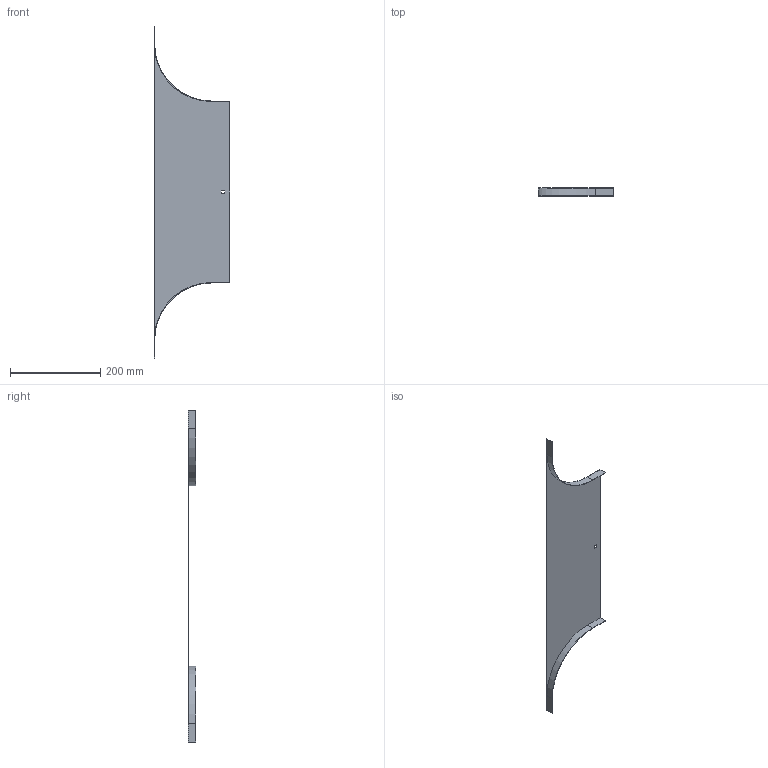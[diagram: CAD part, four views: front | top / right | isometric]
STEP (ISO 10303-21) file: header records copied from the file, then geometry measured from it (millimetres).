
FILE_DESCRIPTION (( 'STEP AP214' ), '1' );
FILE_NAME ('ORL_400.step', '2025-07-16T09:16:00', ( '' ), ( '' ), 'SwSTEP 2.0', 'SolidWorks 2023', '' );
FILE_SCHEMA (( 'AUTOMOTIVE_DESIGN' ));
Length unit declared in the file: millimetre
Products named in the file (1): ORL_400
Bounding box: 167 x 17 x 734 mm (x, y, z)
Volume: 83156.6 mm3; surface area: 168097.1 mm2
Topology: 1 solids, 1 shells, 22 faces, 60 edges, 40 vertices
Faces by surface type: plane 18, cylinder 4
Entity records: 719 total; most frequent: CARTESIAN_POINT 123, ORIENTED_EDGE 120, DIRECTION 114, EDGE_CURVE 60, LINE 52, VECTOR 52, VERTEX_POINT 40, AXIS2_PLACEMENT_3D 31
